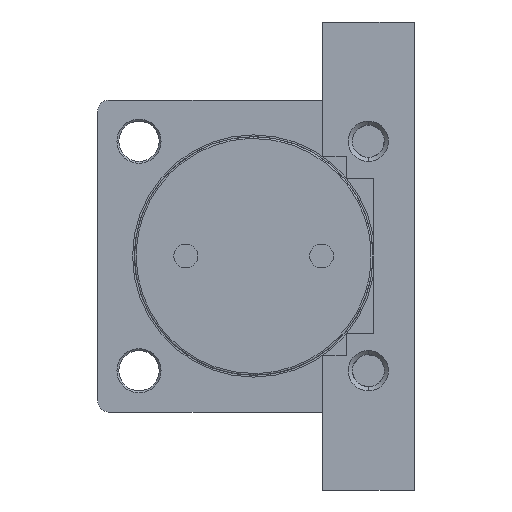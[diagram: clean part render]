
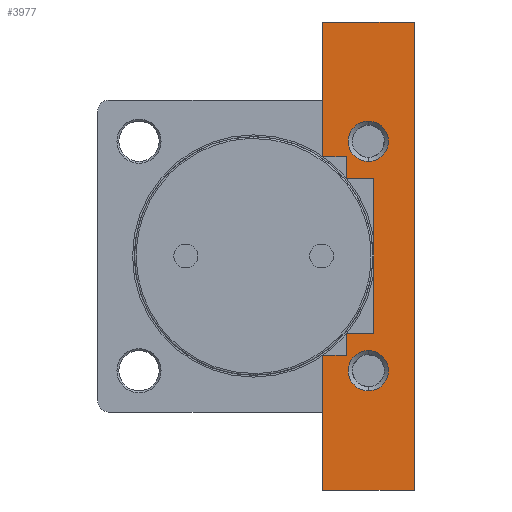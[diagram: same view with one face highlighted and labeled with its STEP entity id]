
A CAD part, left-side view. The second image highlights one B-rep face of the part: STEP entity #3977.
In plain terms, the highlighted planar face has unit normal (1, 0, 0).
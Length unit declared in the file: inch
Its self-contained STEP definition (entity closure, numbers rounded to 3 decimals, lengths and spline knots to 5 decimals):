
#51 = AXIS2_PLACEMENT_3D ( 'NONE', #6071, #8859, #10683 ) ;
#224 = CIRCLE ( 'NONE', #51, 0.43307 ) ;
#258 = VERTEX_POINT ( 'NONE', #2740 ) ;
#476 = EDGE_CURVE ( 'NONE', #6353, #15177, #4981, .T. ) ;
#685 = EDGE_CURVE ( 'NONE', #2149, #13576, #9945, .T. ) ;
#744 = CARTESIAN_POINT ( 'NONE',  ( -3.01181, -2.46063, 2.8937 ) ) ;
#795 = EDGE_LOOP ( 'NONE', ( #9971, #3137 ) ) ;
#840 = CARTESIAN_POINT ( 'NONE',  ( -3.01181, -1.47638, 5.01969 ) ) ;
#865 = CIRCLE ( 'NONE', #14617, 0.43307 ) ;
#877 = AXIS2_PLACEMENT_3D ( 'NONE', #1081, #1061, #1055 ) ;
#892 = CARTESIAN_POINT ( 'NONE',  ( -3.01181, -2.46063, -2.02756 ) ) ;
#1055 = DIRECTION ( 'NONE',  ( 0., 0., 1. ) ) ;
#1060 = CARTESIAN_POINT ( 'NONE',  ( -3.01181, -1.47638, -2.12598 ) ) ;
#1061 = DIRECTION ( 'NONE',  ( -1., 0., 0. ) ) ;
#1064 = LINE ( 'NONE', #8938, #1157 ) ;
#1081 = CARTESIAN_POINT ( 'NONE',  ( -3.01181, -2.46063, 2.46063 ) ) ;
#1087 = CARTESIAN_POINT ( 'NONE',  ( -3.01181, -1.98819, 2.12598 ) ) ;
#1157 = VECTOR ( 'NONE', #4001, 39.37008 ) ;
#1385 = DIRECTION ( 'NONE',  ( 0., 0., 1. ) ) ;
#1392 = DIRECTION ( 'NONE',  ( 0., 0., 1. ) ) ;
#1409 = CARTESIAN_POINT ( 'NONE',  ( -3.01181, -1.98819, 5.01969 ) ) ;
#1604 = ORIENTED_EDGE ( 'NONE', *, *, #9911, .T. ) ;
#1823 = VERTEX_POINT ( 'NONE', #4478 ) ;
#2003 = EDGE_CURVE ( 'NONE', #10399, #258, #1064, .T. ) ;
#2149 = VERTEX_POINT ( 'NONE', #15070 ) ;
#2345 = EDGE_LOOP ( 'NONE', ( #6763, #13494 ) ) ;
#2391 = VERTEX_POINT ( 'NONE', #12000 ) ;
#2566 = ORIENTED_EDGE ( 'NONE', *, *, #3444, .T. ) ;
#2740 = CARTESIAN_POINT ( 'NONE',  ( -3.01181, -1.98819, 1.65354 ) ) ;
#3137 = ORIENTED_EDGE ( 'NONE', *, *, #13311, .T. ) ;
#3238 = EDGE_CURVE ( 'NONE', #12778, #2149, #3318, .T. ) ;
#3296 = ORIENTED_EDGE ( 'NONE', *, *, #685, .T. ) ;
#3318 = LINE ( 'NONE', #840, #3531 ) ;
#3444 = EDGE_CURVE ( 'NONE', #1823, #15137, #3842, .T. ) ;
#3478 = ORIENTED_EDGE ( 'NONE', *, *, #3238, .T. ) ;
#3531 = VECTOR ( 'NONE', #13736, 39.37008 ) ;
#3544 = VECTOR ( 'NONE', #1385, 39.37008 ) ;
#3579 = LINE ( 'NONE', #8051, #3610 ) ;
#3610 = VECTOR ( 'NONE', #8044, 39.37008 ) ;
#3810 = AXIS2_PLACEMENT_3D ( 'NONE', #11217, #11200, #11179 ) ;
#3842 = LINE ( 'NONE', #5573, #3544 ) ;
#3884 = ORIENTED_EDGE ( 'NONE', *, *, #10868, .T. ) ;
#3977 = ADVANCED_FACE ( 'NONE', ( #4663, #4582, #4681 ), #11232, .T. ) ;
#4001 = DIRECTION ( 'NONE',  ( 0., 1., 0. ) ) ;
#4185 = EDGE_CURVE ( 'NONE', #12082, #8684, #4914, .T. ) ;
#4280 = EDGE_CURVE ( 'NONE', #12607, #1823, #5415, .T. ) ;
#4314 = CARTESIAN_POINT ( 'NONE',  ( -3.01181, -1.98819, -1.65354 ) ) ;
#4382 = DIRECTION ( 'NONE',  ( 0., 1., 0. ) ) ;
#4478 = CARTESIAN_POINT ( 'NONE',  ( -3.01181, -1.47638, -5.01969 ) ) ;
#4582 = FACE_BOUND ( 'NONE', #2345, .T. ) ;
#4663 = FACE_BOUND ( 'NONE', #795, .T. ) ;
#4681 = FACE_OUTER_BOUND ( 'NONE', #11551, .T. ) ;
#4914 = LINE ( 'NONE', #8473, #5159 ) ;
#4981 = CIRCLE ( 'NONE', #11898, 0.43307 ) ;
#5159 = VECTOR ( 'NONE', #8415, 39.37008 ) ;
#5212 = VERTEX_POINT ( 'NONE', #744 ) ;
#5347 = VECTOR ( 'NONE', #8079, 39.37008 ) ;
#5367 = EDGE_CURVE ( 'NONE', #2391, #10399, #7217, .T. ) ;
#5415 = LINE ( 'NONE', #8059, #5347 ) ;
#5573 = CARTESIAN_POINT ( 'NONE',  ( -3.01181, -1.47638, 5.01969 ) ) ;
#5698 = VECTOR ( 'NONE', #7105, 39.37008 ) ;
#6071 = CARTESIAN_POINT ( 'NONE',  ( -3.01181, -2.46063, -2.46063 ) ) ;
#6143 = LINE ( 'NONE', #9076, #5698 ) ;
#6278 = CARTESIAN_POINT ( 'NONE',  ( -3.01181, -2.46063, -2.46063 ) ) ;
#6291 = DIRECTION ( 'NONE',  ( -1., 0., 0. ) ) ;
#6308 = DIRECTION ( 'NONE',  ( 0., 0., 1. ) ) ;
#6353 = VERTEX_POINT ( 'NONE', #10749 ) ;
#6608 = CARTESIAN_POINT ( 'NONE',  ( -3.01181, -2.46063, 2.02756 ) ) ;
#6763 = ORIENTED_EDGE ( 'NONE', *, *, #13807, .T. ) ;
#7105 = DIRECTION ( 'NONE',  ( 0., -1., 0. ) ) ;
#7217 = LINE ( 'NONE', #11330, #7233 ) ;
#7233 = VECTOR ( 'NONE', #10736, 39.37008 ) ;
#7639 = CIRCLE ( 'NONE', #877, 0.43307 ) ;
#7926 = CARTESIAN_POINT ( 'NONE',  ( -3.01181, -3.44488, 5.01969 ) ) ;
#8044 = DIRECTION ( 'NONE',  ( 0., 0., 1. ) ) ;
#8051 = CARTESIAN_POINT ( 'NONE',  ( -3.01181, -3.44488, 5.01969 ) ) ;
#8059 = CARTESIAN_POINT ( 'NONE',  ( -3.01181, -3.44488, -5.01969 ) ) ;
#8079 = DIRECTION ( 'NONE',  ( 0., 1., 0. ) ) ;
#8080 = ORIENTED_EDGE ( 'NONE', *, *, #10307, .T. ) ;
#8415 = DIRECTION ( 'NONE',  ( 0., 0., 1. ) ) ;
#8473 = CARTESIAN_POINT ( 'NONE',  ( -3.01181, -1.98819, 5.01969 ) ) ;
#8505 = VERTEX_POINT ( 'NONE', #6608 ) ;
#8684 = VERTEX_POINT ( 'NONE', #4314 ) ;
#8859 = DIRECTION ( 'NONE',  ( -1., 0., 0. ) ) ;
#8938 = CARTESIAN_POINT ( 'NONE',  ( -3.01181, -3.44488, 1.65354 ) ) ;
#9076 = CARTESIAN_POINT ( 'NONE',  ( -3.01181, -3.44488, -2.12598 ) ) ;
#9271 = EDGE_CURVE ( 'NONE', #258, #11578, #14106, .T. ) ;
#9373 = VECTOR ( 'NONE', #13354, 39.37008 ) ;
#9895 = ORIENTED_EDGE ( 'NONE', *, *, #14819, .F. ) ;
#9911 = EDGE_CURVE ( 'NONE', #11578, #12778, #14747, .T. ) ;
#9945 = LINE ( 'NONE', #11571, #9373 ) ;
#9971 = ORIENTED_EDGE ( 'NONE', *, *, #14051, .T. ) ;
#10307 = EDGE_CURVE ( 'NONE', #8684, #2391, #11482, .T. ) ;
#10369 = ORIENTED_EDGE ( 'NONE', *, *, #4280, .T. ) ;
#10399 = VERTEX_POINT ( 'NONE', #10944 ) ;
#10636 = CARTESIAN_POINT ( 'NONE',  ( -3.01181, -1.47638, 2.12598 ) ) ;
#10683 = DIRECTION ( 'NONE',  ( 0., 0., 1. ) ) ;
#10736 = DIRECTION ( 'NONE',  ( 0., 0., 1. ) ) ;
#10749 = CARTESIAN_POINT ( 'NONE',  ( -3.01181, -2.46063, -2.8937 ) ) ;
#10868 = EDGE_CURVE ( 'NONE', #15137, #12082, #6143, .T. ) ;
#10944 = CARTESIAN_POINT ( 'NONE',  ( -3.01181, -2.57874, 1.65354 ) ) ;
#11001 = VECTOR ( 'NONE', #11332, 39.37008 ) ;
#11179 = DIRECTION ( 'NONE',  ( 0., 0., -1. ) ) ;
#11200 = DIRECTION ( 'NONE',  ( 1., 0., 0. ) ) ;
#11217 = CARTESIAN_POINT ( 'NONE',  ( -3.01181, -3.44488, 5.01969 ) ) ;
#11232 = PLANE ( 'NONE',  #3810 ) ;
#11274 = CARTESIAN_POINT ( 'NONE',  ( -3.01181, -3.44488, -1.65354 ) ) ;
#11330 = CARTESIAN_POINT ( 'NONE',  ( -3.01181, -2.57874, 5.01969 ) ) ;
#11332 = DIRECTION ( 'NONE',  ( 0., -1., 0. ) ) ;
#11449 = CARTESIAN_POINT ( 'NONE',  ( -3.01181, -3.44488, -5.01969 ) ) ;
#11482 = LINE ( 'NONE', #11274, #11001 ) ;
#11551 = EDGE_LOOP ( 'NONE', ( #1604, #3478, #3296, #9895, #10369, #2566, #3884, #12102, #8080, #14577, #14045, #14029 ) ) ;
#11571 = CARTESIAN_POINT ( 'NONE',  ( -3.01181, -3.44488, 5.01969 ) ) ;
#11578 = VERTEX_POINT ( 'NONE', #1087 ) ;
#11898 = AXIS2_PLACEMENT_3D ( 'NONE', #6278, #6291, #6308 ) ;
#12000 = CARTESIAN_POINT ( 'NONE',  ( -3.01181, -2.57874, -1.65354 ) ) ;
#12082 = VERTEX_POINT ( 'NONE', #13071 ) ;
#12102 = ORIENTED_EDGE ( 'NONE', *, *, #4185, .T. ) ;
#12607 = VERTEX_POINT ( 'NONE', #11449 ) ;
#12778 = VERTEX_POINT ( 'NONE', #10636 ) ;
#13071 = CARTESIAN_POINT ( 'NONE',  ( -3.01181, -1.98819, -2.12598 ) ) ;
#13090 = DIRECTION ( 'NONE',  ( 0., 0., 1. ) ) ;
#13138 = DIRECTION ( 'NONE',  ( -1., 0., 0. ) ) ;
#13153 = CARTESIAN_POINT ( 'NONE',  ( -3.01181, -2.46063, 2.46063 ) ) ;
#13311 = EDGE_CURVE ( 'NONE', #8505, #5212, #7639, .T. ) ;
#13354 = DIRECTION ( 'NONE',  ( 0., -1., 0. ) ) ;
#13494 = ORIENTED_EDGE ( 'NONE', *, *, #476, .T. ) ;
#13576 = VERTEX_POINT ( 'NONE', #7926 ) ;
#13610 = CARTESIAN_POINT ( 'NONE',  ( -3.01181, -3.44488, 2.12598 ) ) ;
#13736 = DIRECTION ( 'NONE',  ( 0., 0., 1. ) ) ;
#13807 = EDGE_CURVE ( 'NONE', #15177, #6353, #224, .T. ) ;
#14029 = ORIENTED_EDGE ( 'NONE', *, *, #9271, .T. ) ;
#14045 = ORIENTED_EDGE ( 'NONE', *, *, #2003, .T. ) ;
#14051 = EDGE_CURVE ( 'NONE', #5212, #8505, #865, .T. ) ;
#14106 = LINE ( 'NONE', #1409, #14254 ) ;
#14254 = VECTOR ( 'NONE', #1392, 39.37008 ) ;
#14577 = ORIENTED_EDGE ( 'NONE', *, *, #5367, .T. ) ;
#14617 = AXIS2_PLACEMENT_3D ( 'NONE', #13153, #13138, #13090 ) ;
#14713 = VECTOR ( 'NONE', #4382, 39.37008 ) ;
#14747 = LINE ( 'NONE', #13610, #14713 ) ;
#14819 = EDGE_CURVE ( 'NONE', #12607, #13576, #3579, .T. ) ;
#15070 = CARTESIAN_POINT ( 'NONE',  ( -3.01181, -1.47638, 5.01969 ) ) ;
#15137 = VERTEX_POINT ( 'NONE', #1060 ) ;
#15177 = VERTEX_POINT ( 'NONE', #892 ) ;
